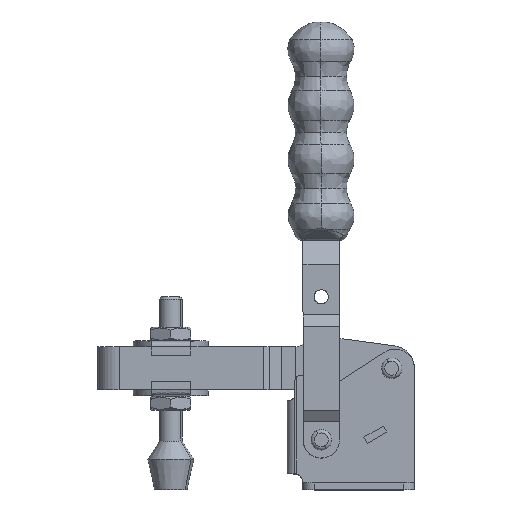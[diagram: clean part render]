
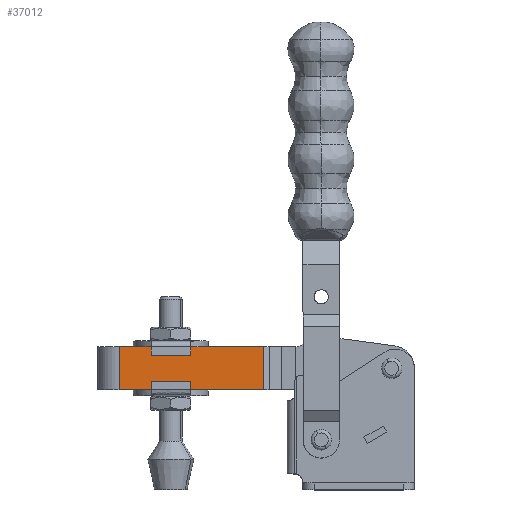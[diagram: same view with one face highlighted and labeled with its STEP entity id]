
A CAD part, top view. The second image highlights one B-rep face of the part: STEP entity #37012.
In plain terms, the highlighted planar face has unit normal (0, 0, 1).
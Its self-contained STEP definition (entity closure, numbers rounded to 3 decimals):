
#37004=AXIS2_PLACEMENT_3D('Plane Axis2P3D',#37001,#37002,#37003) ;
#32476=CARTESIAN_POINT('Vertex',(-130.,63.,9.5)) ;
#32492=CARTESIAN_POINT('Vertex',(-130.,44.,9.5)) ;
#32495=CARTESIAN_POINT('Line Origine',(-130.,63.,9.5)) ;
#32613=CARTESIAN_POINT('Line Origine',(-98.25,63.,9.5)) ;
#32617=CARTESIAN_POINT('Vertex',(-66.5,63.,9.5)) ;
#33157=CARTESIAN_POINT('Vertex',(-66.5,44.,9.5)) ;
#33212=CARTESIAN_POINT('Line Origine',(-98.25,44.,9.5)) ;
#36832=CARTESIAN_POINT('Line Origine',(-66.5,53.5,9.5)) ;
#37001=CARTESIAN_POINT('Axis2P3D Location',(0.,0.,9.5)) ;
#32496=DIRECTION('Vector Direction',(0.,1.,0.)) ;
#32614=DIRECTION('Vector Direction',(1.,0.,0.)) ;
#33213=DIRECTION('Vector Direction',(-1.,0.,0.)) ;
#36833=DIRECTION('Vector Direction',(0.,-1.,0.)) ;
#37002=DIRECTION('Axis2P3D Direction',(0.,0.,1.)) ;
#37003=DIRECTION('Axis2P3D XDirection',(1.,0.,0.)) ;
#32497=VECTOR('Line Direction',#32496,1.) ;
#32615=VECTOR('Line Direction',#32614,1.) ;
#33214=VECTOR('Line Direction',#33213,1.) ;
#36834=VECTOR('Line Direction',#36833,1.) ;
#37007=ORIENTED_EDGE('',*,*,#32619,.T.) ;
#37008=ORIENTED_EDGE('',*,*,#32499,.T.) ;
#37009=ORIENTED_EDGE('',*,*,#33216,.T.) ;
#37010=ORIENTED_EDGE('',*,*,#36836,.F.) ;
#37012=ADVANCED_FACE('Manifold Brep',(#37011),#37005,.T.) ;
#32499=EDGE_CURVE('',#32477,#32493,#32498,.F.) ;
#32619=EDGE_CURVE('',#32618,#32477,#32616,.F.) ;
#33216=EDGE_CURVE('',#32493,#33158,#33215,.F.) ;
#36836=EDGE_CURVE('',#32618,#33158,#36835,.T.) ;
#37006=EDGE_LOOP('',(#37007,#37008,#37009,#37010)) ;
#37011=FACE_OUTER_BOUND('',#37006,.T.) ;
#32498=LINE('Line',#32495,#32497) ;
#32616=LINE('Line',#32613,#32615) ;
#33215=LINE('Line',#33212,#33214) ;
#36835=LINE('Line',#36832,#36834) ;
#37005=PLANE('Plane',#37004) ;
#32477=VERTEX_POINT('',#32476) ;
#32493=VERTEX_POINT('',#32492) ;
#32618=VERTEX_POINT('',#32617) ;
#33158=VERTEX_POINT('',#33157) ;
